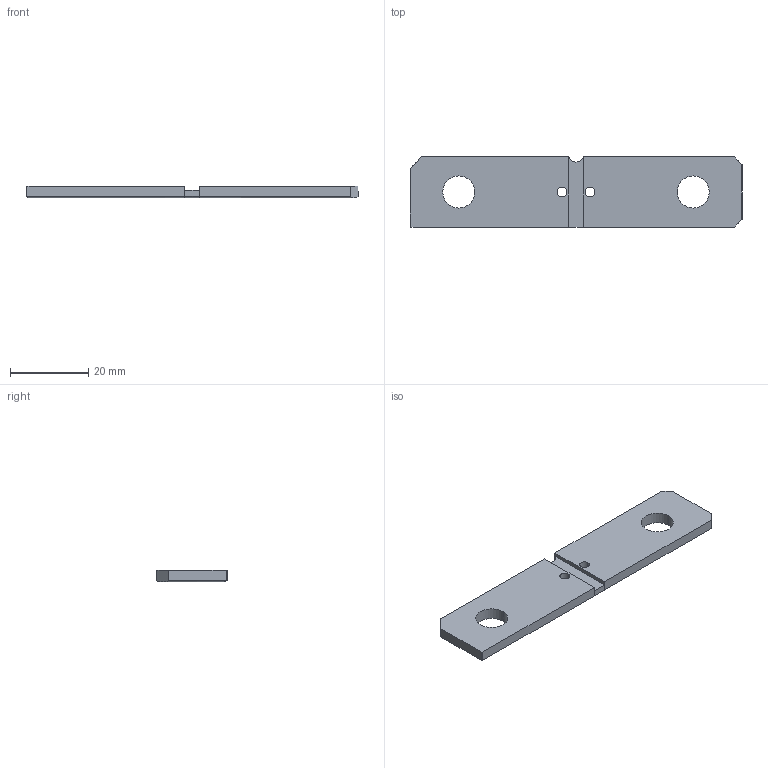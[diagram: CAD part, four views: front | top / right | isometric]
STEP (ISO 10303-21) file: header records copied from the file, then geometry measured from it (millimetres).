
FILE_DESCRIPTION (( 'STEP AP203' ), '1' );
FILE_NAME ('WSBS 8518-M3 50焜HM.STEP', '2017-04-06T19:28:13', ( '' ), ( '' ), 'SwSTEP 2.0', 'SolidWorks 2016', '' );
FILE_SCHEMA (( 'CONFIG_CONTROL_DESIGN' ));
Length unit declared in the file: inch
Products named in the file (2): WSBS 8518-M3 50焜HM
Bounding box: 84.99 x 17.98 x 3 mm (x, y, z)
Volume: 4108 mm3; surface area: 3581.1 mm2
Topology: 1 solids, 1 shells, 39 faces, 109 edges, 72 vertices
Faces by surface type: plane 21, cylinder 18
Entity records: 1444 total; most frequent: CARTESIAN_POINT 279, ORIENTED_EDGE 218, DIRECTION 204, EDGE_CURVE 109, VERTEX_POINT 72, AXIS2_PLACEMENT_3D 69, LINE 66, VECTOR 66
